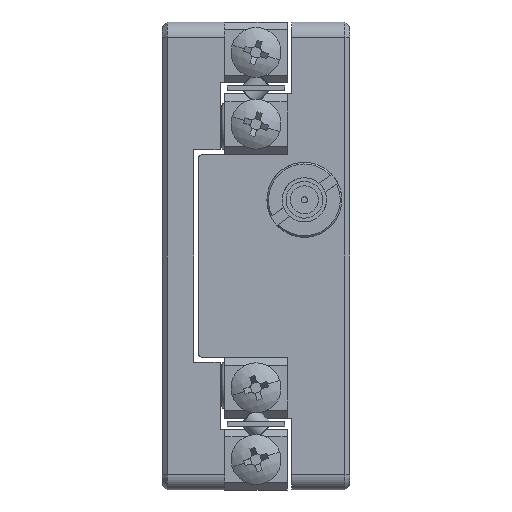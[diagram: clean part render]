
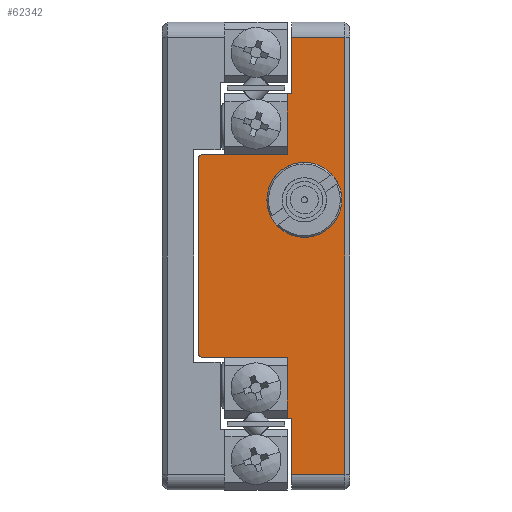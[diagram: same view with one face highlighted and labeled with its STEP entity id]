
A CAD part, left-side view. The second image highlights one B-rep face of the part: STEP entity #62342.
In plain terms, the highlighted planar face has unit normal (-1, 0, 0).
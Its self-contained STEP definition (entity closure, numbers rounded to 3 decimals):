
#697 = CARTESIAN_POINT ( 'NONE',  ( -26.5, 3.7, 10.4 ) ) ;
#887 = DIRECTION ( 'NONE',  ( 0., -1., 0. ) ) ;
#1023 = VECTOR ( 'NONE', #33868, 1000. ) ;
#1174 = CARTESIAN_POINT ( 'NONE',  ( -26.5, 2.9, 5.13 ) ) ;
#2025 = ORIENTED_EDGE ( 'NONE', *, *, #26895, .F. ) ;
#2955 = AXIS2_PLACEMENT_3D ( 'NONE', #30005, #64957, #34899 ) ;
#3010 = EDGE_CURVE ( 'NONE', #26241, #9043, #39561, .T. ) ;
#3138 = ORIENTED_EDGE ( 'NONE', *, *, #22041, .T. ) ;
#3265 = EDGE_CURVE ( 'NONE', #27266, #9043, #38682, .T. ) ;
#3551 = DIRECTION ( 'NONE',  ( 0., 0., 1. ) ) ;
#3657 = CARTESIAN_POINT ( 'NONE',  ( -26.5, 9.7, 15. ) ) ;
#3683 = DIRECTION ( 'NONE',  ( 0., 0., -1. ) ) ;
#3746 = EDGE_CURVE ( 'NONE', #44387, #61432, #62932, .T. ) ;
#3820 = VECTOR ( 'NONE', #887, 1000. ) ;
#4273 = ORIENTED_EDGE ( 'NONE', *, *, #61276, .T. ) ;
#4336 = CIRCLE ( 'NONE', #5028, 1.53 ) ;
#5028 = AXIS2_PLACEMENT_3D ( 'NONE', #42077, #11843, #47098 ) ;
#5228 = DIRECTION ( 'NONE',  ( 0., 0., 1. ) ) ;
#5476 = ORIENTED_EDGE ( 'NONE', *, *, #18327, .F. ) ;
#5846 = LINE ( 'NONE', #48370, #19191 ) ;
#6051 = VECTOR ( 'NONE', #7328, 1000. ) ;
#6450 = ORIENTED_EDGE ( 'NONE', *, *, #49991, .F. ) ;
#6632 = CARTESIAN_POINT ( 'NONE',  ( -26.5, 0.3, 14. ) ) ;
#7140 = LINE ( 'NONE', #44709, #18905 ) ;
#7328 = DIRECTION ( 'NONE',  ( 0., -1., 0. ) ) ;
#9043 = VERTEX_POINT ( 'NONE', #27201 ) ;
#10126 = ORIENTED_EDGE ( 'NONE', *, *, #11419, .T. ) ;
#10313 = ORIENTED_EDGE ( 'NONE', *, *, #56820, .T. ) ;
#11419 = EDGE_CURVE ( 'NONE', #18828, #39708, #27784, .T. ) ;
#11843 = DIRECTION ( 'NONE',  ( -1., 0., 0. ) ) ;
#13131 = DIRECTION ( 'NONE',  ( 0., -1., 0. ) ) ;
#13667 = VECTOR ( 'NONE', #21813, 1000. ) ;
#13965 = CARTESIAN_POINT ( 'NONE',  ( -26.5, 4., 6.5 ) ) ;
#14654 = VECTOR ( 'NONE', #23879, 1000. ) ;
#14706 = CARTESIAN_POINT ( 'NONE',  ( -26.5, 9.4, 6.5 ) ) ;
#16107 = ORIENTED_EDGE ( 'NONE', *, *, #3010, .F. ) ;
#16751 = VECTOR ( 'NONE', #53190, 1000. ) ;
#17190 = LINE ( 'NONE', #41190, #3820 ) ;
#18327 = EDGE_CURVE ( 'NONE', #31634, #61354, #49507, .T. ) ;
#18828 = VERTEX_POINT ( 'NONE', #33338 ) ;
#18905 = VECTOR ( 'NONE', #59678, 1000. ) ;
#19168 = VECTOR ( 'NONE', #57251, 1000. ) ;
#19191 = VECTOR ( 'NONE', #13131, 1000. ) ;
#19408 = LINE ( 'NONE', #37296, #6051 ) ;
#20027 = CIRCLE ( 'NONE', #60857, 0.3 ) ;
#20105 = ORIENTED_EDGE ( 'NONE', *, *, #44498, .F. ) ;
#21813 = DIRECTION ( 'NONE',  ( 0., 1., 0. ) ) ;
#22041 = EDGE_CURVE ( 'NONE', #22956, #61354, #19408, .T. ) ;
#22080 = DIRECTION ( 'NONE',  ( -1., 0., 0. ) ) ;
#22956 = VERTEX_POINT ( 'NONE', #54134 ) ;
#23420 = CARTESIAN_POINT ( 'NONE',  ( -26.5, 3.7, 15. ) ) ;
#23879 = DIRECTION ( 'NONE',  ( 0., 0., 1. ) ) ;
#23979 = CARTESIAN_POINT ( 'NONE',  ( -26.5, 4., -10.4 ) ) ;
#24471 = AXIS2_PLACEMENT_3D ( 'NONE', #63784, #33690, #3551 ) ;
#24667 = VERTEX_POINT ( 'NONE', #53782 ) ;
#25335 = CARTESIAN_POINT ( 'NONE',  ( -26.5, 4., -6.5 ) ) ;
#26241 = VERTEX_POINT ( 'NONE', #61033 ) ;
#26895 = EDGE_CURVE ( 'NONE', #30472, #44387, #17190, .T. ) ;
#27201 = CARTESIAN_POINT ( 'NONE',  ( -26.5, 9.7, 6.2 ) ) ;
#27266 = VERTEX_POINT ( 'NONE', #14706 ) ;
#27752 = VECTOR ( 'NONE', #51789, 1000. ) ;
#27784 = LINE ( 'NONE', #63974, #1023 ) ;
#27969 = CIRCLE ( 'NONE', #24471, 1.53 ) ;
#28502 = DIRECTION ( 'NONE',  ( 0., 0., 1. ) ) ;
#28842 = CARTESIAN_POINT ( 'NONE',  ( -26.5, 2.9, 2.07 ) ) ;
#30005 = CARTESIAN_POINT ( 'NONE',  ( -26.5, 9.4, 6.2 ) ) ;
#30454 = EDGE_CURVE ( 'NONE', #26241, #22956, #20027, .T. ) ;
#30472 = VERTEX_POINT ( 'NONE', #37104 ) ;
#31634 = VERTEX_POINT ( 'NONE', #23979 ) ;
#32023 = FACE_BOUND ( 'NONE', #37750, .T. ) ;
#32587 = LINE ( 'NONE', #52197, #19168 ) ;
#32753 = ORIENTED_EDGE ( 'NONE', *, *, #56844, .F. ) ;
#33338 = CARTESIAN_POINT ( 'NONE',  ( -26.5, 0.3, -14. ) ) ;
#33690 = DIRECTION ( 'NONE',  ( -1., 0., 0. ) ) ;
#33811 = DIRECTION ( 'NONE',  ( 1., 0., 0. ) ) ;
#33868 = DIRECTION ( 'NONE',  ( 0., 0., 1. ) ) ;
#34199 = LINE ( 'NONE', #57033, #13667 ) ;
#34899 = DIRECTION ( 'NONE',  ( 0., 0., -1. ) ) ;
#35425 = CARTESIAN_POINT ( 'NONE',  ( -26.5, 4., -15. ) ) ;
#35833 = ORIENTED_EDGE ( 'NONE', *, *, #30454, .T. ) ;
#37104 = CARTESIAN_POINT ( 'NONE',  ( -26.5, 4., 10.4 ) ) ;
#37296 = CARTESIAN_POINT ( 'NONE',  ( -26.5, 9.7, -6.5 ) ) ;
#37733 = VERTEX_POINT ( 'NONE', #50255 ) ;
#37750 = EDGE_LOOP ( 'NONE', ( #20105, #43260 ) ) ;
#38682 = CIRCLE ( 'NONE', #2955, 0.3 ) ;
#39561 = LINE ( 'NONE', #3657, #27752 ) ;
#39708 = VERTEX_POINT ( 'NONE', #6632 ) ;
#41162 = EDGE_CURVE ( 'NONE', #62198, #37733, #43510, .T. ) ;
#41190 = CARTESIAN_POINT ( 'NONE',  ( -26.5, 9.7, 10.4 ) ) ;
#41468 = CARTESIAN_POINT ( 'NONE',  ( -26.5, 3.7, 14. ) ) ;
#42077 = CARTESIAN_POINT ( 'NONE',  ( -26.5, 2.9, 3.6 ) ) ;
#42518 = VECTOR ( 'NONE', #28502, 1000. ) ;
#42587 = AXIS2_PLACEMENT_3D ( 'NONE', #63910, #33811, #3683 ) ;
#43260 = ORIENTED_EDGE ( 'NONE', *, *, #46709, .F. ) ;
#43510 = LINE ( 'NONE', #48320, #16751 ) ;
#44387 = VERTEX_POINT ( 'NONE', #697 ) ;
#44498 = EDGE_CURVE ( 'NONE', #60591, #57074, #4336, .T. ) ;
#44634 = EDGE_CURVE ( 'NONE', #62198, #18828, #5846, .T. ) ;
#44709 = CARTESIAN_POINT ( 'NONE',  ( -26.5, 9.7, -10.4 ) ) ;
#44794 = ORIENTED_EDGE ( 'NONE', *, *, #41162, .F. ) ;
#46312 = EDGE_LOOP ( 'NONE', ( #32753, #55609, #16107, #35833, #3138, #5476, #4273, #44794, #61950, #10126, #10313, #52582, #2025, #6450 ) ) ;
#46709 = EDGE_CURVE ( 'NONE', #57074, #60591, #27969, .T. ) ;
#47098 = DIRECTION ( 'NONE',  ( 0., 0., 1. ) ) ;
#47663 = CARTESIAN_POINT ( 'NONE',  ( -26.5, 3.7, -14. ) ) ;
#47910 = VECTOR ( 'NONE', #5228, 1000. ) ;
#48320 = CARTESIAN_POINT ( 'NONE',  ( -26.5, 3.7, -15. ) ) ;
#48370 = CARTESIAN_POINT ( 'NONE',  ( -26.5, 9.7, -14. ) ) ;
#49507 = LINE ( 'NONE', #35425, #47910 ) ;
#49991 = EDGE_CURVE ( 'NONE', #24667, #30472, #53249, .T. ) ;
#50255 = CARTESIAN_POINT ( 'NONE',  ( -26.5, 3.7, -10.4 ) ) ;
#51789 = DIRECTION ( 'NONE',  ( 0., 0., 1. ) ) ;
#52197 = CARTESIAN_POINT ( 'NONE',  ( -26.5, 9.7, 6.5 ) ) ;
#52252 = CARTESIAN_POINT ( 'NONE',  ( -26.5, 9.4, -6.2 ) ) ;
#52582 = ORIENTED_EDGE ( 'NONE', *, *, #3746, .F. ) ;
#53190 = DIRECTION ( 'NONE',  ( 0., 0., 1. ) ) ;
#53249 = LINE ( 'NONE', #13965, #14654 ) ;
#53782 = CARTESIAN_POINT ( 'NONE',  ( -26.5, 4., 6.5 ) ) ;
#54134 = CARTESIAN_POINT ( 'NONE',  ( -26.5, 9.4, -6.5 ) ) ;
#55609 = ORIENTED_EDGE ( 'NONE', *, *, #3265, .T. ) ;
#56820 = EDGE_CURVE ( 'NONE', #39708, #61432, #34199, .T. ) ;
#56844 = EDGE_CURVE ( 'NONE', #27266, #24667, #32587, .T. ) ;
#57033 = CARTESIAN_POINT ( 'NONE',  ( -26.5, 9.7, 14. ) ) ;
#57074 = VERTEX_POINT ( 'NONE', #28842 ) ;
#57251 = DIRECTION ( 'NONE',  ( 0., -1., 0. ) ) ;
#57305 = DIRECTION ( 'NONE',  ( 0., 0., -1. ) ) ;
#59678 = DIRECTION ( 'NONE',  ( 0., -1., 0. ) ) ;
#60369 = FACE_OUTER_BOUND ( 'NONE', #46312, .T. ) ;
#60591 = VERTEX_POINT ( 'NONE', #1174 ) ;
#60857 = AXIS2_PLACEMENT_3D ( 'NONE', #52252, #22080, #57305 ) ;
#61033 = CARTESIAN_POINT ( 'NONE',  ( -26.5, 9.7, -6.2 ) ) ;
#61276 = EDGE_CURVE ( 'NONE', #31634, #37733, #7140, .T. ) ;
#61354 = VERTEX_POINT ( 'NONE', #25335 ) ;
#61432 = VERTEX_POINT ( 'NONE', #41468 ) ;
#61950 = ORIENTED_EDGE ( 'NONE', *, *, #44634, .T. ) ;
#62198 = VERTEX_POINT ( 'NONE', #47663 ) ;
#62342 = ADVANCED_FACE ( 'NONE', ( #32023, #60369 ), #63704, .F. ) ;
#62932 = LINE ( 'NONE', #23420, #42518 ) ;
#63704 = PLANE ( 'NONE',  #42587 ) ;
#63784 = CARTESIAN_POINT ( 'NONE',  ( -26.5, 2.9, 3.6 ) ) ;
#63910 = CARTESIAN_POINT ( 'NONE',  ( -26.5, 9.7, 15. ) ) ;
#63974 = CARTESIAN_POINT ( 'NONE',  ( -26.5, 0.3, 14. ) ) ;
#64957 = DIRECTION ( 'NONE',  ( -1., 0., 0. ) ) ;
